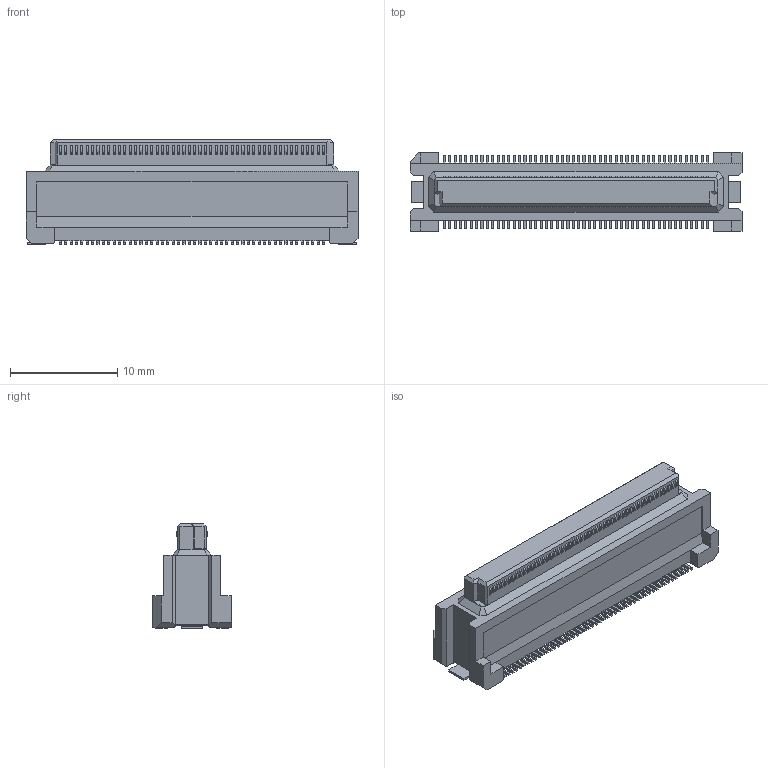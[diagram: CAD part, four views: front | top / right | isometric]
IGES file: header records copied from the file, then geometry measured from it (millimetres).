
Start section: Elysium IGES Interface
Global section: file name: C:\Users\1354\Desktop\DY10-100FS-1.igs; native system: Creo Elements/Direct Modeling 19.0F  14-Feb-2017; preprocessor: Creo Element/Direct IGES_3D V2.2; author: Unknown; organization: Unknown; date: 20171128.113958; units: millimetre
Bounding box: 30.9 x 7.3 x 9.73 mm (x, y, z)
Volume: 1207.8 mm3; surface area: 1198.4 mm2
Topology: 1 solids, 1 shells, 2348 faces, 6689 edges, 4446 vertices
Faces by surface type: bspline 2348
